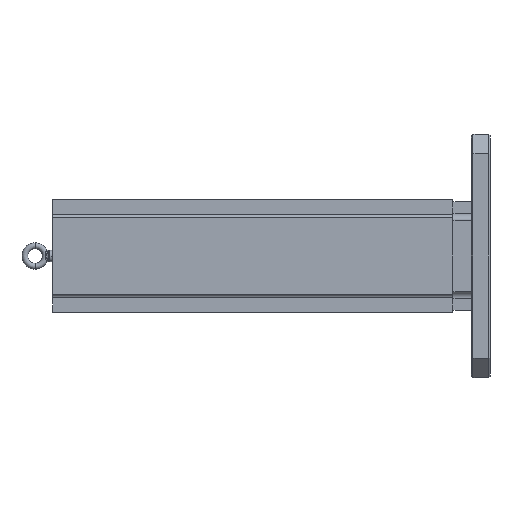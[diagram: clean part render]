
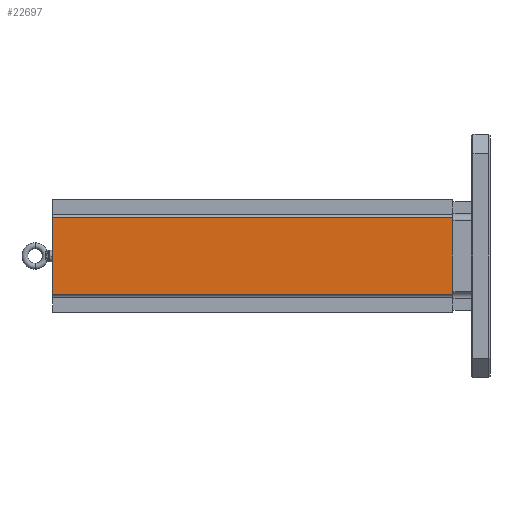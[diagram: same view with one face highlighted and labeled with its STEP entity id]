
A CAD part, left-side view. The second image highlights one B-rep face of the part: STEP entity #22697.
In plain terms, the highlighted planar face has unit normal (-1, 0, 0).
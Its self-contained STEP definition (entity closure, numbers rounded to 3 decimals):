
#841 = DIRECTION ( 'NONE',  ( 1., 0., 0. ) ) ;
#1930 = LINE ( 'NONE', #12413, #30956 ) ;
#5021 = CARTESIAN_POINT ( 'NONE',  ( -116.992, 862., 78.511 ) ) ;
#5665 = EDGE_CURVE ( 'NONE', #25280, #23622, #6750, .T. ) ;
#6750 = LINE ( 'NONE', #11900, #18207 ) ;
#8506 = VERTEX_POINT ( 'NONE', #14783 ) ;
#8566 = VECTOR ( 'NONE', #9181, 1000. ) ;
#8854 = EDGE_CURVE ( 'NONE', #8506, #14532, #19067, .T. ) ;
#9181 = DIRECTION ( 'NONE',  ( 0., 1., 0. ) ) ;
#9230 = DIRECTION ( 'NONE',  ( 0., 0., -1. ) ) ;
#9260 = CARTESIAN_POINT ( 'NONE',  ( -116.992, 38.1, 78.511 ) ) ;
#11900 = CARTESIAN_POINT ( 'NONE',  ( -116.992, 38.1, -79.273 ) ) ;
#12413 = CARTESIAN_POINT ( 'NONE',  ( -116.992, 862., -78.511 ) ) ;
#13412 = EDGE_CURVE ( 'NONE', #25280, #14532, #28033, .T. ) ;
#13701 = FACE_OUTER_BOUND ( 'NONE', #31177, .T. ) ;
#14532 = VERTEX_POINT ( 'NONE', #5021 ) ;
#14783 = CARTESIAN_POINT ( 'NONE',  ( -116.992, 862., -78.511 ) ) ;
#17417 = EDGE_CURVE ( 'NONE', #8506, #23622, #1930, .T. ) ;
#18207 = VECTOR ( 'NONE', #33157, 1000. ) ;
#19021 = PLANE ( 'NONE',  #29819 ) ;
#19067 = LINE ( 'NONE', #23693, #26994 ) ;
#21452 = ORIENTED_EDGE ( 'NONE', *, *, #5665, .F. ) ;
#22274 = CARTESIAN_POINT ( 'NONE',  ( -116.992, 862., -79.273 ) ) ;
#22697 = ADVANCED_FACE ( 'NONE', ( #13701 ), #19021, .F. ) ;
#23050 = ORIENTED_EDGE ( 'NONE', *, *, #13412, .T. ) ;
#23320 = CARTESIAN_POINT ( 'NONE',  ( -116.992, 38.1, -78.511 ) ) ;
#23622 = VERTEX_POINT ( 'NONE', #23320 ) ;
#23693 = CARTESIAN_POINT ( 'NONE',  ( -116.992, 862., -79.273 ) ) ;
#25280 = VERTEX_POINT ( 'NONE', #9260 ) ;
#25448 = CARTESIAN_POINT ( 'NONE',  ( -116.992, 862., 78.511 ) ) ;
#26994 = VECTOR ( 'NONE', #29545, 1000. ) ;
#28033 = LINE ( 'NONE', #25448, #8566 ) ;
#29545 = DIRECTION ( 'NONE',  ( 0., 0., 1. ) ) ;
#29819 = AXIS2_PLACEMENT_3D ( 'NONE', #22274, #841, #9230 ) ;
#30886 = ORIENTED_EDGE ( 'NONE', *, *, #8854, .F. ) ;
#30956 = VECTOR ( 'NONE', #33342, 1000. ) ;
#31177 = EDGE_LOOP ( 'NONE', ( #21452, #23050, #30886, #33076 ) ) ;
#33076 = ORIENTED_EDGE ( 'NONE', *, *, #17417, .T. ) ;
#33157 = DIRECTION ( 'NONE',  ( 0., 0., -1. ) ) ;
#33342 = DIRECTION ( 'NONE',  ( 0., -1., 0. ) ) ;
